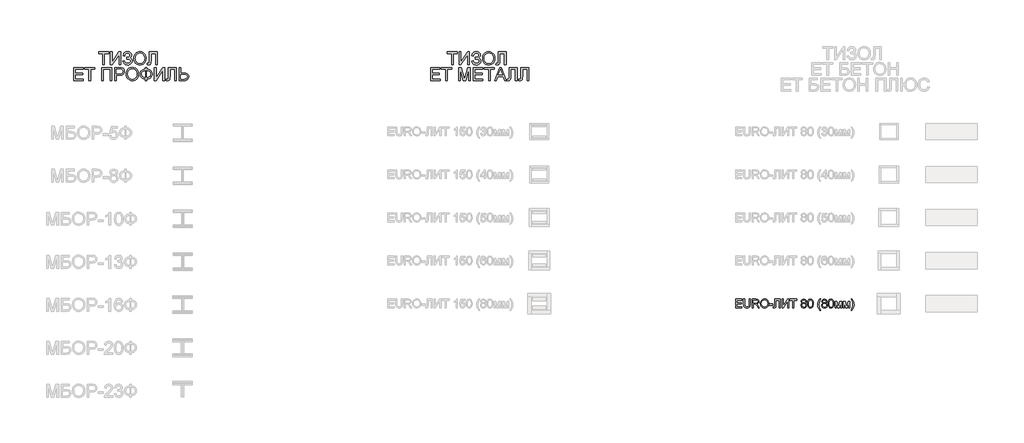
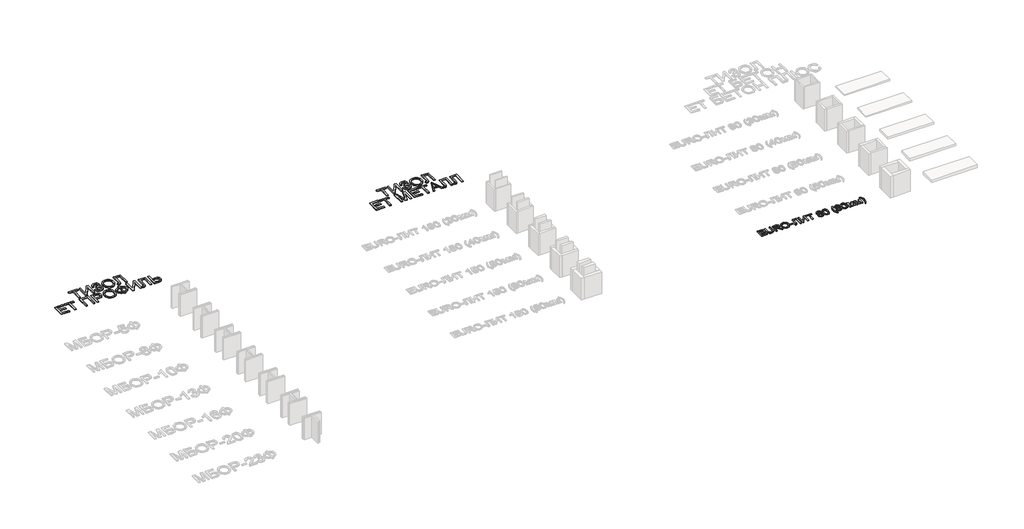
# One storey, part 19 of 35: 3 proxies.
"""IFC4 building model written with IfcOpenShell, lengths in millimetres."""

import ifcopenshell
import ifcopenshell.guid

model = None  # the IFC model being written
_history = None  # IfcOwnerHistory: only IFC2X3 demands one
_inside = {}  # id of a spatial element -> (the spatial element, [elements in it])
_under = {}  # id of a project, library or spatial element -> (it, [spatial elements below it])
_declared = {}  # id of a project -> (the project, [libraries it declares])
_typed = {}  # id of a type object -> (the type object, [elements of that type])
_made_of = {}  # id of a material, layer set ... -> (it, [elements and type objects made of it])


def new_model(schema):
    """Start an empty IFC model of exactly this schema.

    Asked for "IFC4X3", IfcOpenShell would pick the latest addendum, in which some entities
    have other attributes; the version numbers below select the first issue.
    IFC2X3 requires an IfcOwnerHistory on every rooted entity: one is made here for all.
    """
    global model, _history
    if schema == "IFC4X3":
        model = ifcopenshell.file(schema_version=(4, 3, 0, 0))
    else:
        model = ifcopenshell.file(schema=schema)
    _inside.clear()
    _under.clear()
    _declared.clear()
    _typed.clear()
    _made_of.clear()
    _history = None
    if model.schema == "IFC2X3":
        org = make("IfcOrganization", Name="unknown")
        user = make(
            "IfcPersonAndOrganization",
            ThePerson=make("IfcPerson", FamilyName="unknown"),
            TheOrganization=org,
        )
        app = make(
            "IfcApplication",
            ApplicationDeveloper=org,
            Version="unknown",
            ApplicationFullName="unknown",
            ApplicationIdentifier="unknown",
        )
        _history = make(
            "IfcOwnerHistory",
            OwningUser=user,
            OwningApplication=app,
            ChangeAction="ADDED",
            CreationDate=0,
        )
    return model


def make(cls, **values):
    """One entity of the class cls with the attributes given. An attribute that is None is left unset."""
    return model.create_entity(
        cls, **{name: value for name, value in values.items() if value is not None}
    )


def rooted(cls, **values):
    """An entity with a GlobalId (a new one), such as an element, a storey or a relation."""
    return make(cls, GlobalId=ifcopenshell.guid.new(), OwnerHistory=_history, **values)


def si_unit(unit_type, name, prefix=None):
    """IfcSIUnit, for example si_unit("LENGTHUNIT", "METRE", prefix="MILLI")."""
    return make("IfcSIUnit", UnitType=unit_type, Prefix=prefix, Name=name)


def assignment(units):
    """IfcUnitAssignment: the units of a project."""
    return None if units is None else make("IfcUnitAssignment", Units=units)


def point(xyz):
    """IfcCartesianPoint."""
    return None if xyz is None else make("IfcCartesianPoint", Coordinates=xyz)


def direction(xyz):
    """IfcDirection."""
    return None if xyz is None else make("IfcDirection", DirectionRatios=xyz)


def frame(location, z_axis=None, x_axis=None):
    """IfcAxis2Placement3D, a coordinate frame: its origin and axes. An axis left out is left unset."""
    return make(
        "IfcAxis2Placement3D",
        Location=point(location),
        Axis=direction(z_axis),
        RefDirection=direction(x_axis),
    )


def origin():
    """The frame at (0, 0, 0) with its axes left unset."""
    return frame((0.0, 0.0, 0.0))


def origin_with_axes():
    """The frame at (0, 0, 0) with the z axis (0, 0, 1) and the x axis (1, 0, 0) written out."""
    return frame((0.0, 0.0, 0.0), z_axis=(0.0, 0.0, 1.0), x_axis=(1.0, 0.0, 0.0))


def place(relative_to, where):
    """IfcLocalPlacement: puts the frame where relative to a parent placement (None: the world)."""
    return make(
        "IfcLocalPlacement", PlacementRelTo=relative_to, RelativePlacement=where
    )


def context(
    kind, dimensions, precision=None, world=None, true_north=None, identifier=None
):
    """IfcGeometricRepresentationContext, for example the 3D "Model" context."""
    return make(
        "IfcGeometricRepresentationContext",
        ContextIdentifier=identifier,
        ContextType=kind,
        CoordinateSpaceDimension=dimensions,
        Precision=precision,
        WorldCoordinateSystem=world,
        TrueNorth=true_north,
    )


def project(units=None, contexts=None):
    """IfcProject with its units and contexts."""
    return rooted(
        "IfcProject",
        Name="project",
        RepresentationContexts=contexts,
        UnitsInContext=assignment(units),
    )


def spatial(cls, under=None, at=None, **own):
    """A site, building, storey or space (cls), placed at a placement, below another one or the project."""
    s = rooted(cls, ObjectPlacement=at, **own)
    if under is not None:
        _under.setdefault(under.id(), (under, []))[1].append(s)
    return s


def polyline(points):
    """IfcPolyline through the points."""
    return make("IfcPolyline", Points=[point(p) for p in points])


def outline(outer, holes=None, kind="AREA"):
    """IfcArbitraryClosedProfileDef: a profile drawn as a closed curve; with holes, ...WithVoids."""
    if holes is None:
        return make("IfcArbitraryClosedProfileDef", ProfileType=kind, OuterCurve=outer)
    return make(
        "IfcArbitraryProfileDefWithVoids",
        ProfileType=kind,
        OuterCurve=outer,
        InnerCurves=holes,
    )


def extrude(swept, where, along, depth):
    """IfcExtrudedAreaSolid: the profile swept, set in the frame where, extruded along a direction by depth."""
    return make(
        "IfcExtrudedAreaSolid",
        SweptArea=swept,
        Position=where,
        ExtrudedDirection=direction(along),
        Depth=depth,
    )


def shape(context_of_items, identifier, shape_type, items):
    """IfcShapeRepresentation: the items that make up one representation, for example the "Body"."""
    return make(
        "IfcShapeRepresentation",
        ContextOfItems=context_of_items,
        RepresentationIdentifier=identifier,
        RepresentationType=shape_type,
        Items=items,
    )


def made_of(thing, what):
    """Note that an element or type object is made of a material, layer set ...; save() writes the relation."""
    if what is not None:
        _made_of.setdefault(what.id(), (what, []))[1].append(thing)
    return thing


def element(
    cls,
    number,
    at=None,
    inside=None,
    cuts=None,
    type_object=None,
    material=None,
    context=None,
    identifier="Body",
    shape_type=None,
    held_by="IfcProductDefinitionShape",
    body=None,
    shapes=None,
    **own,
):
    """One element of the class cls, such as IfcWall. Its Tag is "e" and its number.

    at: its placement. inside: the storey or other place that contains it. cuts: it is an
    opening in that element (IfcRelVoidsElement). A single representation is given by context,
    identifier, shape_type and body (its items); several are given by shapes. held_by: the class
    of the entity that holds the representations. save() writes the other relations.
    """
    e = rooted(cls, Tag="e%d" % number, ObjectPlacement=at, **own)
    if body is not None:
        shapes = [shape(context, identifier, shape_type, body)]
    if shapes is not None:
        e.Representation = make(held_by, Representations=shapes)
    if inside is not None:
        _inside.setdefault(inside.id(), (inside, []))[1].append(e)
    if cuts is not None:
        rooted(
            "IfcRelVoidsElement", RelatingBuildingElement=cuts, RelatedOpeningElement=e
        )
    if type_object is not None:
        _typed.setdefault(type_object.id(), (type_object, []))[1].append(e)
    return made_of(e, material)


def aggregate(whole, parts):
    """IfcRelAggregates: a whole, such as a stair, and the parts it consists of."""
    return rooted("IfcRelAggregates", RelatingObject=whole, RelatedObjects=parts)


def save(model, path):
    """Write the relations noted so far, then the file.

    IfcRelAggregates (storeys below a building ...), IfcRelContainedInSpatialStructure (elements
    in a storey), IfcRelDefinesByType, IfcRelAssociatesMaterial and IfcRelDeclares: one each for
    every whole, place, type object, material and project.
    """
    for whole, parts in _under.values():
        aggregate(whole, parts)
    for where, things in _inside.values():
        rooted(
            "IfcRelContainedInSpatialStructure",
            RelatedElements=things,
            RelatingStructure=where,
        )
    for kind, things in _typed.values():
        rooted("IfcRelDefinesByType", RelatedObjects=things, RelatingType=kind)
    for what, things in _made_of.values():
        rooted("IfcRelAssociatesMaterial", RelatedObjects=things, RelatingMaterial=what)
    for by, libraries in _declared.values():
        rooted("IfcRelDeclares", RelatingContext=by, RelatedDefinitions=libraries)
    model.write(path)


model = new_model("IFC4")

# Units and contexts
model_context = context("Model", 3, world=origin())
ifc_project = project(units=[si_unit("LENGTHUNIT", "METRE", prefix="MILLI")], contexts=[model_context])

# Site, building, storey
site = spatial("IfcSite", under=ifc_project)
building = spatial("IfcBuilding", under=site)
storey = spatial("IfcBuildingStorey", under=building, Name="Этаж 01", Elevation=0.0)

# Proxies
placement = place(None, origin())
element("IfcBuildingElementProxy", 1, Name="600 мм Arial", ObjectType="600 мм Arial", at=placement, inside=storey, context=model_context, shape_type="SweptSolid", body=[
    extrude(outline(polyline([(16812.8246338, -47580.4053349), (16812.8246338, -47316.7075208), (16713.9379535, -47316.7075208), (16713.9379535, -47279.0364045), (16949.3824304, -47279.0364045), (16949.3824304, -47316.7075208), (16850.4957501, -47316.7075208), (16850.4957501, -47580.4053349), (16812.8246338, -47580.4053349)])), origin_with_axes(), (0.0, 0.0, 1.0), 20.0),
    extrude(outline(polyline([(16991.7624363, -47279.0364045), (17029.4335526, -47279.0364045), (17029.4335526, -47517.7182429), (17187.1813521, -47279.0364045), (17227.2069132, -47279.0364045), (17227.2069132, -47580.4053349), (17189.5357969, -47580.4053349), (17189.5357969, -47342.385684), (17032.1558793, -47580.4053349), (16991.7624363, -47580.4053349), (16991.7624363, -47279.0364045)])), origin_with_axes(), (0.0, 0.0, 1.0), 20.0),
    extrude(outline(polyline([(17279.0046981, -47495.6453232), (17316.6758144, -47486.2275442), (17324.6312626, -47506.6174037), (17339.8155919, -47527.0256574), (17361.6769795, -47542.3387455), (17389.6636023, -47547.4431081), (17418.018107, -47543.6079383), (17439.6587654, -47532.102429), (17453.3715668, -47515.1706601), (17457.9425006, -47495.056712), (17452.9485025, -47473.9862708), (17437.9665082, -47457.7166895), (17414.3760753, -47447.3148261), (17383.5567611, -47443.8475383), (17363.7647098, -47443.8475383), (17363.7647098, -47406.176422), (17406.402233, -47403.1230014), (17420.2989754, -47397.696742), (17432.4850665, -47387.5248048), (17440.9831406, -47374.1247032), (17443.8158319, -47359.0139502), (17440.0450415, -47341.272841), (17428.7326701, -47326.0149353), (17410.9823639, -47315.5027072), (17387.8977687, -47311.9986312), (17367.0296625, -47314.6933669), (17349.4541002, -47322.7775737), (17335.9896192, -47335.3131527), (17327.4547569, -47351.3620047), (17321.384704, -47377.9230848), (17283.7135876, -47368.5053057), (17295.4168336, -47327.3025222), (17304.8311638, -47311.1157144), (17316.6206321, -47297.8719626), (17330.7852386, -47287.5712668), (17347.3249831, -47280.2136269), (17366.2398658, -47275.7990429), (17387.5298867, -47274.3275149), (17408.0416072, -47275.8565245), (17426.313846, -47280.4435531), (17442.3466032, -47288.0886008), (17456.1398788, -47298.7916676), (17467.2292217, -47311.541078), (17475.1501809, -47325.3251565), (17479.9027564, -47340.1439031), (17481.4869483, -47355.9973179), (17479.0221389, -47375.8215589), (17471.6277108, -47393.2821581), (17459.3036639, -47408.3791154), (17442.0499984, -47421.112431), (17463.000878, -47430.7601363), (17480.2361495, -47447.0481117), (17491.76925, -47468.5784054), (17495.6136169, -47493.9530661), (17493.7696084, -47512.5839898), (17488.2375829, -47529.6284225), (17479.0175404, -47545.0863641), (17466.1094809, -47558.9578146), (17450.1571978, -47570.4012439), (17431.8044848, -47578.575122), (17411.0513418, -47583.4794488), (17387.8977687, -47585.1142245), (17349.6932235, -47579.5224181), (17333.3362703, -47572.5326602), (17318.80953, -47562.7469991), (17306.1130026, -47550.1654349), (17295.2466882, -47534.7879675), (17279.0046981, -47495.6453232)])), origin_with_axes(), (0.0, 0.0, 1.0), 20.0),
    extrude(outline(polyline([(17533.2847332, -47433.6939952), (17535.7955278, -47398.345134), (17543.3279116, -47367.0521718), (17555.8818847, -47339.8151086), (17573.457447, -47316.6339444), (17595.0015364, -47298.1248815), (17619.4610905, -47284.9041223), (17646.8361095, -47276.9716668), (17677.1265933, -47274.3275149), (17716.6555137, -47279.2939219), (17752.1009439, -47294.1931427), (17781.5315035, -47317.9767137), (17803.015812, -47349.5961711), (17816.1491993, -47387.5248048), (17820.526995, -47430.2359045), (17815.919273, -47473.5172212), (17802.096107, -47511.9792838), (17779.8208522, -47543.6539236), (17749.8568637, -47566.5729719), (17714.7149361, -47580.4789113), (17676.9058641, -47585.1142245), (17636.7699384, -47579.9914677), (17601.1221731, -47564.6231973), (17571.7651899, -47540.3981679), (17550.5016105, -47508.7051341), (17537.5889525, -47472.2388313), (17533.2847332, -47433.6939952)]), holes=[polyline([(17570.9558495, -47434.0618772), (17572.8389454, -47459.0364662), (17578.4882333, -47481.2059549), (17587.9037131, -47500.5703434), (17601.0853849, -47517.1296317), (17617.108945, -47530.3917777), (17635.0500901, -47539.864739), (17654.90882, -47545.5485159), (17676.6851349, -47547.4431081), (17698.8339303, -47545.5301218), (17718.927185, -47539.7911626), (17736.9648991, -47530.2262308), (17752.9470725, -47516.8353262), (17766.0321752, -47499.9265499), (17775.3786771, -47479.8080033), (17780.9865783, -47456.4796863), (17782.8558787, -47429.9415989), (17779.6553053, -47396.593096), (17770.0535853, -47367.7695417), (17754.2990388, -47344.1975029), (17732.6399864, -47326.6035464), (17706.5111677, -47315.64986), (17677.3473225, -47311.9986312), (17656.327465, -47313.757567), (17636.8251207, -47319.0343744), (17618.8402897, -47327.8290533), (17602.3729719, -47340.1416039), (17588.6279808, -47356.5652357), (17578.8101301, -47377.6931585), (17572.9194196, -47403.5253724), (17570.9558495, -47434.0618772)])]), origin_with_axes(), (0.0, 0.0, 1.0), 20.0),
    extrude(outline(polyline([(17895.8692276, -47279.0364045), (18079.5159196, -47279.0364045), (18079.5159196, -47580.4053349), (18041.8448033, -47580.4053349), (18041.8448033, -47316.7075208), (17933.5403439, -47316.7075208), (17933.5403439, -47470.4821948), (17929.1625482, -47539.0921869), (17922.3843224, -47558.479568), (17910.8052366, -47573.0109068), (17894.9495226, -47582.088395), (17875.3414123, -47585.1142245), (17844.0714427, -47580.4053349), (17848.7803322, -47542.7342186), (17866.80655, -47547.4431081), (17879.5444641, -47544.9139194), (17888.6219523, -47537.3263533), (17894.0574088, -47520.3577963), (17895.8692276, -47489.6856349), (17895.8692276, -47279.0364045)])), origin_with_axes(), (0.0, 0.0, 1.0), 20.0),
    extrude(outline(polyline([(16139.4534298, -47946.3297885), (16139.4534298, -47644.960858), (16356.0623486, -47644.960858), (16356.0623486, -47682.6319743), (16177.1245462, -47682.6319743), (16177.1245462, -47772.1008755), (16346.6445695, -47772.1008755), (16346.6445695, -47809.7719918), (16177.1245462, -47809.7719918), (16177.1245462, -47908.6586721), (16360.7712381, -47908.6586721), (16360.7712381, -47946.3297885), (16139.4534298, -47946.3297885)])), origin_with_axes(), (0.0, 0.0, 1.0), 20.0),
    extrude(outline(polyline([(16492.6201452, -47946.3297885), (16492.6201452, -47682.6319743), (16393.7334649, -47682.6319743), (16393.7334649, -47644.960858), (16629.1779418, -47644.960858), (16629.1779418, -47682.6319743), (16530.2912615, -47682.6319743), (16530.2912615, -47946.3297885), (16492.6201452, -47946.3297885)])), origin_with_axes(), (0.0, 0.0, 1.0), 20.0),
    extrude(outline(polyline([(16789.2801861, -47644.960858), (17024.724663, -47644.960858), (17024.724663, -47946.3297885), (16987.0535467, -47946.3297885), (16987.0535467, -47682.6319743), (16826.9513024, -47682.6319743), (16826.9513024, -47946.3297885), (16789.2801861, -47946.3297885), (16789.2801861, -47644.960858)])), origin_with_axes(), (0.0, 0.0, 1.0), 20.0),
    extrude(outline(polyline([(17090.6491166, -47946.3297885), (17090.6491166, -47644.960858), (17202.3380903, -47644.960858), (17247.3668465, -47647.8303376), (17267.4440064, -47653.1922176), (17283.971105, -47661.920218), (17297.2792362, -47674.4098117), (17307.6994937, -47691.056472), (17314.4317342, -47710.6921735), (17316.6758144, -47732.1488909), (17315.1606004, -47750.6487567), (17310.6149585, -47767.6678975), (17303.0388887, -47783.2063133), (17292.4323909, -47797.264004), (17277.8711617, -47808.9166662), (17258.4308975, -47817.2399963), (17234.1115984, -47822.2339944), (17204.9132643, -47823.8986605), (17128.3202329, -47823.8986605), (17128.3202329, -47946.3297885), (17090.6491166, -47946.3297885)]), holes=[polyline([(17128.3202329, -47786.2275442), (17207.1205562, -47786.2275442), (17240.5242414, -47782.7694534), (17262.5971611, -47772.3951811), (17274.9028139, -47755.7485209), (17279.0046981, -47733.473266), (17276.585874, -47716.5506943), (17269.3294016, -47702.2768729), (17258.1365919, -47691.5347186), (17243.9087558, -47685.2071483), (17206.2376395, -47682.6319743), (17128.3202329, -47682.6319743), (17128.3202329, -47786.2275442)])]), origin_with_axes(), (0.0, 0.0, 1.0), 20.0),
    extrude(outline(polyline([(17354.3469307, -47799.6184488), (17356.8577253, -47764.2695876), (17364.3901092, -47732.9766253), (17376.9440823, -47705.7395621), (17394.5196446, -47682.5583979), (17416.0637339, -47664.049335), (17440.5232881, -47650.8285758), (17467.8983071, -47642.8961203), (17498.1887908, -47640.2519685), (17537.7177112, -47645.2183754), (17573.1631415, -47660.1175962), (17602.5937011, -47683.9011672), (17624.0780096, -47715.5206247), (17637.2113968, -47753.4492584), (17641.5891926, -47796.160358), (17636.9814706, -47839.4416748), (17623.1583046, -47877.9037373), (17600.8830498, -47909.5783771), (17570.9190613, -47932.4974254), (17535.7771337, -47946.4033649), (17497.9680616, -47951.038678), (17457.832136, -47945.9159212), (17422.1843706, -47930.5476509), (17392.8273874, -47906.3226215), (17371.5638081, -47874.6295876), (17358.6511501, -47838.1632848), (17354.3469307, -47799.6184488)]), holes=[polyline([(17392.018047, -47799.9863308), (17393.901143, -47824.9609197), (17399.5504309, -47847.1304085), (17408.9659107, -47866.494797), (17422.1475824, -47883.0540853), (17438.1711426, -47896.3162312), (17456.1122876, -47905.7891926), (17475.9710176, -47911.4729694), (17497.7473324, -47913.3675617), (17519.8961278, -47911.4545753), (17539.9893825, -47905.7156162), (17558.0270966, -47896.1506843), (17574.00927, -47882.7597797), (17587.0943728, -47865.8510035), (17596.4408747, -47845.7324569), (17602.0487759, -47822.4041399), (17603.9180762, -47795.8660524), (17600.7175029, -47762.5175496), (17591.1157828, -47733.6939952), (17575.3612364, -47710.1219564), (17553.7021839, -47692.528), (17527.5733652, -47681.5743136), (17498.40952, -47677.9230848), (17477.3896625, -47679.6820206), (17457.8873183, -47684.9588279), (17439.9024872, -47693.7535069), (17423.4351694, -47706.0660574), (17409.6901784, -47722.4896892), (17399.8723276, -47743.6176121), (17393.9816172, -47769.4498259), (17392.018047, -47799.9863308)])]), origin_with_axes(), (0.0, 0.0, 1.0), 20.0),
    extrude(outline(polyline([(17801.6914369, -47682.6319743), (17801.6914369, -47644.960858), (17839.3625532, -47644.960858), (17839.3625532, -47682.6319743), (17866.2340336, -47685.9521093), (17890.1210714, -47692.8223056), (17911.0236666, -47703.2425631), (17928.941819, -47717.2128819), (17943.3145087, -47733.919323), (17953.5807156, -47752.5479475), (17959.7404398, -47773.0987554), (17961.7936812, -47795.5717468), (17959.8048191, -47817.5940828), (17953.838233, -47837.8965704), (17943.8939228, -47856.4792097), (17929.9718886, -47873.3420006), (17912.3756329, -47887.5514427), (17891.4086584, -47898.1740353), (17867.0709652, -47905.2097784), (17839.3625532, -47908.6586721), (17839.3625532, -47946.3297885), (17801.6914369, -47946.3297885), (17801.6914369, -47908.6586721), (17776.5237099, -47905.8512727), (17753.5540778, -47899.4892134), (17732.7825406, -47889.5724944), (17714.2090984, -47876.1011156), (17698.919003, -47859.6314985), (17687.9975062, -47840.7200647), (17681.4446082, -47819.3668141), (17679.2603089, -47795.5717468), (17681.4377104, -47771.6686142), (17687.9699151, -47750.2854732), (17698.8569229, -47731.4223239), (17714.0987338, -47715.0791663), (17732.6376871, -47701.7388454), (17753.416122, -47691.8842065), (17776.4340386, -47685.5152494), (17801.6914369, -47682.6319743)]), holes=[polyline([(17839.3625532, -47720.3030906), (17839.3625532, -47870.9875558), (17874.6056483, -47864.7611531), (17901.4610339, -47849.6136119), (17911.3754537, -47838.8875525), (17918.4571821, -47826.3174846), (17924.1225648, -47795.6453232), (17918.5583497, -47765.3870291), (17911.6030807, -47752.8928369), (17901.8657041, -47742.1552811), (17875.111486, -47726.832996), (17839.3625532, -47720.3030906)]), polyline([(17801.6914369, -47720.3030906), (17767.414032, -47726.3363553), (17740.3655083, -47741.3459407), (17730.1130969, -47752.0513068), (17722.7899459, -47764.6696592), (17718.3960554, -47779.200998), (17716.9314252, -47795.6453232), (17718.3776613, -47811.9401964), (17722.7163695, -47826.391061), (17729.94755, -47838.9979171), (17740.0712027, -47849.7607647), (17767.04615, -47864.9083059), (17801.6914369, -47870.9875558), (17801.6914369, -47720.3030906)])]), origin_with_axes(), (0.0, 0.0, 1.0), 20.0),
    extrude(outline(polyline([(18013.5914661, -47644.960858), (18051.2625824, -47644.960858), (18051.2625824, -47883.6426965), (18209.0103819, -47644.960858), (18249.035943, -47644.960858), (18249.035943, -47946.3297885), (18211.3648267, -47946.3297885), (18211.3648267, -47708.3101376), (18053.9849091, -47946.3297885), (18013.5914661, -47946.3297885), (18013.5914661, -47644.960858)])), origin_with_axes(), (0.0, 0.0, 1.0), 20.0),
    extrude(outline(polyline([(18338.5048442, -47644.960858), (18522.1515362, -47644.960858), (18522.1515362, -47946.3297885), (18484.4804199, -47946.3297885), (18484.4804199, -47682.6319743), (18376.1759605, -47682.6319743), (18376.1759605, -47836.4066483), (18371.7981648, -47905.0166404), (18365.019939, -47924.4040215), (18353.4408532, -47938.9353603), (18337.5851392, -47948.0128486), (18317.9770289, -47951.038678), (18286.7070593, -47946.3297885), (18291.4159488, -47908.6586721), (18309.4421666, -47913.3675617), (18322.1800807, -47910.838373), (18331.2575689, -47903.2508068), (18336.6930254, -47886.2822498), (18338.5048442, -47855.6100884), (18338.5048442, -47644.960858)])), origin_with_axes(), (0.0, 0.0, 1.0), 20.0),
    extrude(outline(polyline([(18588.0759897, -47644.960858), (18625.747106, -47644.960858), (18625.747106, -47772.1008755), (18696.3068727, -47772.1008755), (18738.8800166, -47775.0531285), (18767.8599208, -47783.9098876), (18786.9162081, -47797.8526152), (18799.7185016, -47816.062774), (18806.9749739, -47836.7101509), (18809.393798, -47857.9645332), (18803.5812625, -47891.0371246), (18786.1436559, -47919.7687084), (18772.0169873, -47931.3891809), (18752.8871236, -47939.6895184), (18728.7540647, -47944.6697209), (18699.6178107, -47946.3297885), (18588.0759897, -47946.3297885), (18588.0759897, -47644.960858)]), holes=[polyline([(18625.747106, -47908.6586721), (18699.5442343, -47908.6586721), (18736.6635276, -47904.9338669), (18749.3462594, -47900.2778604), (18758.1110479, -47893.7594513), (18768.3197733, -47877.3243232), (18771.7226817, -47857.8173804), (18769.2578724, -47842.0168487), (18761.8634443, -47828.7547028), (18750.3579349, -47818.8862683), (18735.5598816, -47813.2668708), (18679.8257593, -47809.7719918), (18625.747106, -47809.7719918), (18625.747106, -47908.6586721)])]), origin_with_axes(), (0.0, 0.0, 1.0), 20.0),
])
element("IfcBuildingElementProxy", 2, Name="600 мм Arial", ObjectType="600 мм Arial", at=placement, inside=storey, context=model_context, shape_type="SweptSolid", body=[
    extrude(outline(polyline([(24912.8246338, -47580.4053349), (24912.8246338, -47316.7075208), (24813.9379535, -47316.7075208), (24813.9379535, -47279.0364045), (25049.3824304, -47279.0364045), (25049.3824304, -47316.7075208), (24950.4957501, -47316.7075208), (24950.4957501, -47580.4053349), (24912.8246338, -47580.4053349)])), origin_with_axes(), (0.0, 0.0, 1.0), 20.0),
    extrude(outline(polyline([(25091.7624363, -47279.0364045), (25129.4335526, -47279.0364045), (25129.4335526, -47517.7182429), (25287.1813521, -47279.0364045), (25327.2069132, -47279.0364045), (25327.2069132, -47580.4053349), (25289.5357969, -47580.4053349), (25289.5357969, -47342.385684), (25132.1558793, -47580.4053349), (25091.7624363, -47580.4053349), (25091.7624363, -47279.0364045)])), origin_with_axes(), (0.0, 0.0, 1.0), 20.0),
    extrude(outline(polyline([(25379.0046981, -47495.6453232), (25416.6758144, -47486.2275442), (25424.6312626, -47506.6174037), (25439.8155919, -47527.0256574), (25461.6769795, -47542.3387455), (25489.6636023, -47547.4431081), (25518.018107, -47543.6079383), (25539.6587654, -47532.102429), (25553.3715668, -47515.1706601), (25557.9425006, -47495.056712), (25552.9485025, -47473.9862708), (25537.9665082, -47457.7166895), (25514.3760753, -47447.3148261), (25483.5567611, -47443.8475383), (25463.7647098, -47443.8475383), (25463.7647098, -47406.176422), (25506.402233, -47403.1230014), (25520.2989754, -47397.696742), (25532.4850665, -47387.5248048), (25540.9831406, -47374.1247032), (25543.8158319, -47359.0139502), (25540.0450415, -47341.272841), (25528.7326701, -47326.0149353), (25510.9823639, -47315.5027072), (25487.8977687, -47311.9986312), (25467.0296625, -47314.6933669), (25449.4541002, -47322.7775737), (25435.9896192, -47335.3131527), (25427.4547569, -47351.3620047), (25421.384704, -47377.9230848), (25383.7135876, -47368.5053057), (25395.4168336, -47327.3025222), (25404.8311638, -47311.1157144), (25416.6206321, -47297.8719626), (25430.7852386, -47287.5712668), (25447.3249831, -47280.2136269), (25466.2398658, -47275.7990429), (25487.5298867, -47274.3275149), (25508.0416072, -47275.8565245), (25526.313846, -47280.4435531), (25542.3466032, -47288.0886008), (25556.1398788, -47298.7916676), (25567.2292217, -47311.541078), (25575.1501809, -47325.3251565), (25579.9027564, -47340.1439031), (25581.4869483, -47355.9973179), (25579.0221389, -47375.8215589), (25571.6277108, -47393.2821581), (25559.3036639, -47408.3791154), (25542.0499984, -47421.112431), (25563.000878, -47430.7601363), (25580.2361495, -47447.0481117), (25591.76925, -47468.5784054), (25595.6136169, -47493.9530661), (25593.7696084, -47512.5839898), (25588.2375829, -47529.6284225), (25579.0175404, -47545.0863641), (25566.1094809, -47558.9578146), (25550.1571978, -47570.4012439), (25531.8044848, -47578.575122), (25511.0513418, -47583.4794488), (25487.8977687, -47585.1142245), (25449.6932235, -47579.5224181), (25433.3362703, -47572.5326602), (25418.80953, -47562.7469991), (25406.1130026, -47550.1654349), (25395.2466882, -47534.7879675), (25379.0046981, -47495.6453232)])), origin_with_axes(), (0.0, 0.0, 1.0), 20.0),
    extrude(outline(polyline([(25633.2847332, -47433.6939952), (25635.7955278, -47398.345134), (25643.3279116, -47367.0521718), (25655.8818847, -47339.8151086), (25673.457447, -47316.6339444), (25695.0015364, -47298.1248815), (25719.4610905, -47284.9041223), (25746.8361095, -47276.9716668), (25777.1265933, -47274.3275149), (25816.6555137, -47279.2939219), (25852.1009439, -47294.1931427), (25881.5315035, -47317.9767137), (25903.015812, -47349.5961711), (25916.1491993, -47387.5248048), (25920.526995, -47430.2359045), (25915.919273, -47473.5172212), (25902.096107, -47511.9792838), (25879.8208522, -47543.6539236), (25849.8568637, -47566.5729719), (25814.7149361, -47580.4789113), (25776.9058641, -47585.1142245), (25736.7699384, -47579.9914677), (25701.1221731, -47564.6231973), (25671.7651899, -47540.3981679), (25650.5016105, -47508.7051341), (25637.5889525, -47472.2388313), (25633.2847332, -47433.6939952)]), holes=[polyline([(25670.9558495, -47434.0618772), (25672.8389454, -47459.0364662), (25678.4882333, -47481.2059549), (25687.9037131, -47500.5703434), (25701.0853849, -47517.1296317), (25717.108945, -47530.3917777), (25735.0500901, -47539.864739), (25754.90882, -47545.5485159), (25776.6851349, -47547.4431081), (25798.8339303, -47545.5301218), (25818.927185, -47539.7911626), (25836.9648991, -47530.2262308), (25852.9470725, -47516.8353262), (25866.0321752, -47499.9265499), (25875.3786771, -47479.8080033), (25880.9865783, -47456.4796863), (25882.8558787, -47429.9415989), (25879.6553053, -47396.593096), (25870.0535853, -47367.7695417), (25854.2990388, -47344.1975029), (25832.6399864, -47326.6035464), (25806.5111677, -47315.64986), (25777.3473225, -47311.9986312), (25756.327465, -47313.757567), (25736.8251207, -47319.0343744), (25718.8402897, -47327.8290533), (25702.3729719, -47340.1416039), (25688.6279808, -47356.5652357), (25678.8101301, -47377.6931585), (25672.9194196, -47403.5253724), (25670.9558495, -47434.0618772)])]), origin_with_axes(), (0.0, 0.0, 1.0), 20.0),
    extrude(outline(polyline([(25995.8692276, -47279.0364045), (26179.5159196, -47279.0364045), (26179.5159196, -47580.4053349), (26141.8448033, -47580.4053349), (26141.8448033, -47316.7075208), (26033.5403439, -47316.7075208), (26033.5403439, -47470.4821948), (26029.1625482, -47539.0921869), (26022.3843224, -47558.479568), (26010.8052366, -47573.0109068), (25994.9495226, -47582.088395), (25975.3414123, -47585.1142245), (25944.0714427, -47580.4053349), (25948.7803322, -47542.7342186), (25966.80655, -47547.4431081), (25979.5444641, -47544.9139194), (25988.6219523, -47537.3263533), (25994.0574088, -47520.3577963), (25995.8692276, -47489.6856349), (25995.8692276, -47279.0364045)])), origin_with_axes(), (0.0, 0.0, 1.0), 20.0),
    extrude(outline(polyline([(24425.4545666, -47946.3297885), (24425.4545666, -47644.960858), (24642.0634854, -47644.960858), (24642.0634854, -47682.6319743), (24463.1256829, -47682.6319743), (24463.1256829, -47772.1008755), (24632.6457063, -47772.1008755), (24632.6457063, -47809.7719918), (24463.1256829, -47809.7719918), (24463.1256829, -47908.6586721), (24646.7723749, -47908.6586721), (24646.7723749, -47946.3297885), (24425.4545666, -47946.3297885)])), origin_with_axes(), (0.0, 0.0, 1.0), 20.0),
    extrude(outline(polyline([(24778.621282, -47946.3297885), (24778.621282, -47682.6319743), (24679.7346017, -47682.6319743), (24679.7346017, -47644.960858), (24915.1790786, -47644.960858), (24915.1790786, -47682.6319743), (24816.2923983, -47682.6319743), (24816.2923983, -47946.3297885), (24778.621282, -47946.3297885)])), origin_with_axes(), (0.0, 0.0, 1.0), 20.0),
    extrude(outline(polyline([(25075.2813229, -47946.3297885), (25075.2813229, -47644.960858), (25140.1021304, -47644.960858), (25201.7591528, -47857.375922), (25214.1935643, -47901.7424906), (25227.6580453, -47853.6971021), (25288.2849981, -47644.960858), (25353.1058056, -47644.960858), (25353.1058056, -47946.3297885), (25315.4346893, -47946.3297885), (25315.4346893, -47682.6319743), (25239.7245747, -47946.3297885), (25188.6625538, -47946.3297885), (25112.9524392, -47682.6319743), (25112.9524392, -47946.3297885), (25075.2813229, -47946.3297885)])), origin_with_axes(), (0.0, 0.0, 1.0), 20.0),
    extrude(outline(polyline([(25419.0302592, -47946.3297885), (25419.0302592, -47644.960858), (25635.6391779, -47644.960858), (25635.6391779, -47682.6319743), (25456.7013755, -47682.6319743), (25456.7013755, -47772.1008755), (25626.2213989, -47772.1008755), (25626.2213989, -47809.7719918), (25456.7013755, -47809.7719918), (25456.7013755, -47908.6586721), (25640.3480675, -47908.6586721), (25640.3480675, -47946.3297885), (25419.0302592, -47946.3297885)])), origin_with_axes(), (0.0, 0.0, 1.0), 20.0),
    extrude(outline(polyline([(25772.1969746, -47946.3297885), (25772.1969746, -47682.6319743), (25673.3102942, -47682.6319743), (25673.3102942, -47644.960858), (25908.7547712, -47644.960858), (25908.7547712, -47682.6319743), (25809.8680909, -47682.6319743), (25809.8680909, -47946.3297885), (25772.1969746, -47946.3297885)])), origin_with_axes(), (0.0, 0.0, 1.0), 20.0),
    extrude(outline(polyline([(25916.0388347, -47946.3297885), (26036.3362471, -47644.960858), (26068.4155571, -47644.960858), (26188.7129695, -47946.3297885), (26148.9081376, -47946.3297885), (26114.4008065, -47852.1519977), (25990.2774213, -47852.1519977), (25955.8436665, -47946.3297885), (25916.0388347, -47946.3297885)]), holes=[polyline([(26004.1097843, -47814.4808814), (26100.6420198, -47814.4808814), (26073.4923286, -47740.3894476), (26052.3759021, -47682.6319743), (26033.6139203, -47733.9147244), (26004.1097843, -47814.4808814)])]), origin_with_axes(), (0.0, 0.0, 1.0), 20.0),
    extrude(outline(polyline([(26252.5037075, -47644.960858), (26436.1503994, -47644.960858), (26436.1503994, -47946.3297885), (26398.4792831, -47946.3297885), (26398.4792831, -47682.6319743), (26290.1748238, -47682.6319743), (26290.1748238, -47836.4066483), (26285.797028, -47905.0166404), (26279.0188023, -47924.4040215), (26267.4397165, -47938.9353603), (26251.5840025, -47948.0128486), (26231.9758921, -47951.038678), (26200.7059225, -47946.3297885), (26205.4148121, -47908.6586721), (26223.4410298, -47913.3675617), (26236.1789439, -47910.838373), (26245.2564321, -47903.2508068), (26250.6918886, -47886.2822498), (26252.5037075, -47855.6100884), (26252.5037075, -47644.960858)])), origin_with_axes(), (0.0, 0.0, 1.0), 20.0),
    extrude(outline(polyline([(26525.6193007, -47644.960858), (26709.2659927, -47644.960858), (26709.2659927, -47946.3297885), (26671.5948764, -47946.3297885), (26671.5948764, -47682.6319743), (26563.290417, -47682.6319743), (26563.290417, -47836.4066483), (26558.9126212, -47905.0166404), (26552.1343955, -47924.4040215), (26540.5553097, -47938.9353603), (26524.6995957, -47948.0128486), (26505.0914853, -47951.038678), (26473.8215158, -47946.3297885), (26478.5304053, -47908.6586721), (26496.5566231, -47913.3675617), (26509.2945371, -47910.838373), (26518.3720254, -47903.2508068), (26523.8074818, -47886.2822498), (26525.6193007, -47855.6100884), (26525.6193007, -47644.960858)])), origin_with_axes(), (0.0, 0.0, 1.0), 20.0),
])
element("IfcBuildingElementProxy", 3, Name="400 мм Arial", ObjectType="400 мм Arial", at=placement, inside=storey, context=model_context, shape_type="SweptSolid", body=[
    extrude(outline(polyline([(31509.8248691, -53230.4960856), (31509.8248691, -53029.5834653), (31654.2308149, -53029.5834653), (31654.2308149, -53054.6975429), (31534.9389466, -53054.6975429), (31534.9389466, -53114.343477), (31647.9522956, -53114.343477), (31647.9522956, -53139.4575546), (31534.9389466, -53139.4575546), (31534.9389466, -53205.3820081), (31657.3700746, -53205.3820081), (31657.3700746, -53230.4960856), (31509.8248691, -53230.4960856)])), origin_with_axes(), (0.0, 0.0, 1.0), 20.0),
    extrude(outline(polyline([(31826.890098, -53029.5834653), (31852.0041756, -53029.5834653), (31852.0041756, -53145.4908193), (31850.2996556, -53172.6343792), (31845.1860959, -53193.5362079), (31835.6334268, -53209.661702), (31820.6115786, -53222.4762582), (31800.0837633, -53230.8455735), (31774.0131926, -53233.6353453), (31748.5128389, -53231.2073242), (31728.126045, -53223.9232607), (31712.8466795, -53212.0345409), (31702.668611, -53195.7925508), (31696.948046, -53174.0078053), (31695.0411909, -53145.4908193), (31695.0411909, -53029.5834653), (31720.1552685, -53029.5834653), (31720.1552685, -53144.6079025), (31721.3938045, -53167.1774629), (31725.1094127, -53182.8921555), (31731.8416532, -53193.7753312), (31742.1300863, -53201.850341), (31755.5455164, -53206.8535361), (31771.6587478, -53208.5212678), (31797.202021, -53205.2225926), (31814.1859065, -53195.3265669), (31823.7140501, -53176.0495504), (31826.890098, -53144.6079025), (31826.890098, -53029.5834653)])), origin_with_axes(), (0.0, 0.0, 1.0), 20.0),
    extrude(outline(polyline([(31895.9538112, -53230.4960856), (31895.9538112, -53029.5834653), (31982.5287074, -53029.5834653), (32005.7972436, -53030.9384974), (32022.7259468, -53035.0035934), (32035.0990446, -53042.5083861), (32044.7007646, -53054.1825081), (32050.862788, -53068.6586646), (32052.9167959, -53084.5695609), (32049.5138874, -53104.3616122), (32039.305162, -53120.7691492), (32021.9840514, -53132.7988905), (31997.2439873, -53139.4575546), (32011.5178087, -53150.1997088), (32031.8739457, -53176.0495504), (32065.3757328, -53230.4960856), (32036.1904278, -53230.4960856), (32010.0462807, -53188.8518438), (31991.1616716, -53161.2852196), (31977.8933943, -53148.262197), (31965.9494922, -53143.4797311), (31951.3813652, -53142.5968143), (31921.0678888, -53142.5968143), (31921.0678888, -53230.4960856), (31895.9538112, -53230.4960856)]), holes=[polyline([(31921.0678888, -53117.4827367), (31977.2802576, -53117.4827367), (32005.9505278, -53113.9265441), (32015.3805696, -53109.3034937), (32022.2354375, -53102.5467277), (32027.8027183, -53085.5015286), (32025.1478366, -53073.2510582), (32017.1831914, -53063.379558), (32003.4795871, -53056.8680467), (31983.607828, -53054.6975429), (31921.0678888, -53054.6975429), (31921.0678888, -53117.4827367)])]), origin_with_axes(), (0.0, 0.0, 1.0), 20.0),
    extrude(outline(polyline([(32087.4486525, -53132.6885259), (32089.1225155, -53109.1226184), (32094.1441048, -53088.2606436), (32102.5134202, -53070.1026014), (32114.2304617, -53054.648492), (32128.5931879, -53042.3091167), (32144.8995574, -53033.4952772), (32163.14957, -53028.2069736), (32183.3432259, -53026.4442057), (32209.6958395, -53029.7551436), (32233.3261263, -53039.6879575), (32252.9464994, -53055.5436715), (32267.2693717, -53076.6233098), (32276.0249632, -53101.9090656), (32278.9434937, -53130.383132), (32275.871679, -53159.2373432), (32266.6562351, -53184.8787182), (32251.8060652, -53205.9951448), (32231.8300728, -53221.2745103), (32208.4021211, -53230.5451366), (32183.1960731, -53233.6353453), (32156.4387893, -53230.2201742), (32132.6736124, -53219.9746606), (32113.1022903, -53203.824641), (32098.9265707, -53182.6959517), (32090.318132, -53158.3850832), (32087.4486525, -53132.6885259)]), holes=[polyline([(32112.56273, -53132.9337805), (32117.5843192, -53164.3631656), (32132.6490869, -53188.3122835), (32155.2922237, -53203.4690217), (32183.0489203, -53208.5212678), (32211.210287, -53203.4199708), (32233.890212, -53188.1160798), (32242.6136138, -53176.8435623), (32248.8446151, -53163.4311979), (32253.8294162, -53130.1869283), (32251.6957006, -53107.9545931), (32245.2945539, -53088.7388902), (32234.7915229, -53073.0241976), (32220.3521546, -53061.2948933), (32202.9329421, -53053.9924357), (32183.4903787, -53051.5582832), (32156.4755775, -53056.2487786), (32133.5074783, -53070.3202649), (32124.3441509, -53081.2693528), (32117.7989171, -53095.3546347), (32112.56273, -53132.9337805)])]), origin_with_axes(), (0.0, 0.0, 1.0), 20.0),
    extrude(outline(polyline([(32297.7790518, -53170.8501515), (32297.7790518, -53145.736074), (32376.2605441, -53145.736074), (32376.2605441, -53170.8501515), (32297.7790518, -53170.8501515)])), origin_with_axes(), (0.0, 0.0, 1.0), 20.0),
    extrude(outline(polyline([(32423.3494395, -53029.5834653), (32545.7805675, -53029.5834653), (32545.7805675, -53230.4960856), (32520.66649, -53230.4960856), (32520.66649, -53054.6975429), (32448.4635171, -53054.6975429), (32448.4635171, -53157.2139922), (32445.5449866, -53202.9539869), (32441.0261694, -53215.8789077), (32433.3067789, -53225.5664669), (32422.7363029, -53231.6181257), (32409.6642293, -53233.6353453), (32388.8175829, -53230.4960856), (32391.9568426, -53205.3820081), (32403.9743211, -53208.5212678), (32412.4662638, -53206.835142), (32418.5179227, -53201.7767646), (32422.1415603, -53190.4643932), (32423.3494395, -53170.0162856), (32423.3494395, -53029.5834653)])), origin_with_axes(), (0.0, 0.0, 1.0), 20.0),
    extrude(outline(polyline([(32589.7302032, -53029.5834653), (32614.8442808, -53029.5834653), (32614.8442808, -53188.704691), (32720.0094804, -53029.5834653), (32746.6931878, -53029.5834653), (32746.6931878, -53230.4960856), (32721.5791103, -53230.4960856), (32721.5791103, -53071.8163184), (32616.6591653, -53230.4960856), (32589.7302032, -53230.4960856), (32589.7302032, -53029.5834653)])), origin_with_axes(), (0.0, 0.0, 1.0), 20.0),
    extrude(outline(polyline([(32840.8709786, -53230.4960856), (32840.8709786, -53054.6975429), (32774.9465251, -53054.6975429), (32774.9465251, -53029.5834653), (32931.9095097, -53029.5834653), (32931.9095097, -53054.6975429), (32865.9850561, -53054.6975429), (32865.9850561, -53230.4960856), (32840.8709786, -53230.4960856)])), origin_with_axes(), (0.0, 0.0, 1.0), 20.0),
    extrude(outline(polyline([(33065.8185559, -53119.8371815), (33052.372469, -53113.2153056), (33042.9362958, -53104.2389849), (33037.3628836, -53093.0921605), (33035.5050795, -53079.9587732), (33039.5517815, -53060.3261374), (33051.6918873, -53044.1025414), (33070.5642336, -53033.2132344), (33094.8076571, -53029.5834653), (33119.1982334, -53033.2990735), (33138.3158344, -53044.445898), (33150.6766695, -53060.9270113), (33154.7969478, -53080.6454863), (33152.9636692, -53093.3558092), (33147.4638334, -53104.3125613), (33138.2361267, -53113.2336997), (33125.2192354, -53119.8371815), (33140.6764106, -53127.8018267), (33151.9274682, -53139.531131), (33158.7884675, -53154.4610086), (33161.0754672, -53172.0273739), (33156.5382559, -53196.0378054), (33142.9266221, -53215.8789077), (33121.9082974, -53229.1962359), (33095.1510137, -53233.6353453), (33068.3937299, -53229.1778418), (33047.3754052, -53215.8053313), (33033.7637714, -53195.7741567), (33029.2265601, -53171.3406608), (33031.6055304, -53153.0937139), (33038.7424411, -53138.0841285), (33050.2694102, -53126.8269394), (33065.8185559, -53119.8371815)]), holes=[polyline([(33060.619157, -53080.6945372), (33062.8448431, -53091.6574207), (33069.5219013, -53100.4130122), (33080.4541279, -53106.1519713), (33095.4453193, -53108.0649577), (33110.0870227, -53106.164234), (33120.8537024, -53100.4620631), (33127.4755783, -53092.0007772), (33129.6828703, -53081.8227087), (33127.4020019, -53071.258364), (33120.5593968, -53062.5211667), (33109.6455643, -53056.6534488), (33095.1510137, -53054.6975429), (33080.5644925, -53056.6105293), (33069.6690541, -53062.3494884), (33062.8816313, -53070.7617233), (33060.619157, -53080.6945372)]), polyline([(33054.3406377, -53170.457744), (33058.5344924, -53189.3668786), (33064.3408966, -53197.4786766), (33073.3723995, -53203.5180727), (33095.3472174, -53208.5212678), (33112.4414674, -53205.8909115), (33125.2682863, -53197.9998427), (33133.2881138, -53186.0498093), (33135.9613897, -53171.242559), (33133.2022747, -53156.1839226), (33124.9249298, -53143.9702404), (33111.8038053, -53135.8768365), (33094.5133515, -53133.1790352), (33077.6582248, -53135.8400483), (33064.9601646, -53143.8230876), (33056.9955194, -53155.8037779), (33054.3406377, -53170.457744)])]), origin_with_axes(), (0.0, 0.0, 1.0), 20.0),
    extrude(outline(polyline([(33183.050285, -53131.6584563), (33184.8958264, -53099.4994385), (33190.4324504, -53073.8519321), (33199.6049748, -53054.3235295), (33212.3582173, -53040.5218233), (33228.7841484, -53032.3180548), (33248.9747386, -53029.5834653), (33264.4503078, -53031.2021461), (33278.3071963, -53036.0581885), (33289.8954792, -53043.96152), (33298.5652315, -53054.7220684), (33310.3374554, -53084.4469336), (33314.8991921, -53131.6584563), (33313.0720449, -53163.633533), (33307.5906031, -53189.2197258), (33298.473261, -53208.7665225), (33285.7384126, -53222.623411), (33269.2756933, -53230.8823617), (33248.9747386, -53233.6353453), (33222.8796424, -53228.8528794), (33203.0630656, -53214.5054816), (33194.3074741, -53199.3763345), (33188.0534802, -53180.525448), (33183.050285, -53131.6584563)]), holes=[polyline([(33208.1643626, -53131.6094053), (33211.1074185, -53171.1138003), (33219.9365864, -53193.9776663), (33233.0822364, -53204.8853674), (33248.9747386, -53208.5212678), (33264.8672408, -53204.8731047), (33278.0128907, -53193.9286153), (33286.8420586, -53171.0524866), (33289.7851146, -53131.6094053), (33286.9401605, -53092.9940586), (33278.4052982, -53069.952383), (33265.2841737, -53058.5112529), (33248.680433, -53054.6975429), (33232.9596091, -53058.0575318), (33220.3289939, -53068.1374984), (33211.2055204, -53092.6139139), (33208.1643626, -53131.6094053)])]), origin_with_axes(), (0.0, 0.0, 1.0), 20.0),
    extrude(outline(polyline([(33471.8621767, -53287.0027601), (33452.4012192, -53259.6936533), (33436.2021487, -53228.0925899), (33425.2760534, -53193.7324116), (33421.6340216, -53158.1459599), (33424.3563484, -53126.937304), (33432.5233287, -53097.0775487), (33448.734662, -53063.2569306), (33471.8621767, -53029.5834653), (33490.6977349, -53029.5834653), (33467.2023381, -53069.3637718), (33453.0756695, -53107.9178049), (33446.7480992, -53158.2931127), (33449.4949514, -53190.4889187), (33457.7355081, -53222.6724619), (33471.4697693, -53254.8437424), (33490.6977349, -53287.0027601), (33471.8621767, -53287.0027601)])), origin_with_axes(), (0.0, 0.0, 1.0), 20.0),
    extrude(outline(polyline([(33546.1252888, -53119.8371815), (33532.6792019, -53113.2153056), (33523.2430287, -53104.2389849), (33517.6696165, -53093.0921605), (33515.8118124, -53079.9587732), (33519.8585144, -53060.3261374), (33531.9986202, -53044.1025414), (33550.8709665, -53033.2132344), (33575.11439, -53029.5834653), (33599.5049663, -53033.2990735), (33618.6225673, -53044.445898), (33630.9834024, -53060.9270113), (33635.1036807, -53080.6454863), (33633.2704021, -53093.3558092), (33627.7705663, -53104.3125613), (33618.5428596, -53113.2336997), (33605.5259683, -53119.8371815), (33620.9831435, -53127.8018267), (33632.2342011, -53139.531131), (33639.0952004, -53154.4610086), (33641.3822001, -53172.0273739), (33636.8449888, -53196.0378054), (33623.233355, -53215.8789077), (33602.2150303, -53229.1962359), (33575.4577466, -53233.6353453), (33548.7004628, -53229.1778418), (33527.6821381, -53215.8053313), (33514.0705043, -53195.7741567), (33509.533293, -53171.3406608), (33511.9122633, -53153.0937139), (33519.049174, -53138.0841285), (33530.5761431, -53126.8269394), (33546.1252888, -53119.8371815)]), holes=[polyline([(33534.6473706, -53170.457744), (33538.8412253, -53189.3668786), (33544.6476295, -53197.4786766), (33553.6791324, -53203.5180727), (33575.6539503, -53208.5212678), (33592.7482003, -53205.8909115), (33605.5750192, -53197.9998427), (33613.5948467, -53186.0498093), (33616.2681226, -53171.242559), (33613.5090076, -53156.1839226), (33605.2316627, -53143.9702404), (33592.1105382, -53135.8768365), (33574.8200844, -53133.1790352), (33557.9649577, -53135.8400483), (33545.2668975, -53143.8230876), (33537.3022523, -53155.8037779), (33534.6473706, -53170.457744)]), polyline([(33540.9258899, -53080.6945372), (33543.151576, -53091.6574207), (33549.8286342, -53100.4130122), (33560.7608609, -53106.1519713), (33575.7520522, -53108.0649577), (33590.3937556, -53106.164234), (33601.1604353, -53100.4620631), (33607.7823112, -53092.0007772), (33609.9896032, -53081.8227087), (33607.7087348, -53071.258364), (33600.8661297, -53062.5211667), (33589.9522972, -53056.6534488), (33575.4577466, -53054.6975429), (33560.8712255, -53056.6105293), (33549.975787, -53062.3494884), (33543.1883642, -53070.7617233), (33540.9258899, -53080.6945372)])]), origin_with_axes(), (0.0, 0.0, 1.0), 20.0),
    extrude(outline(polyline([(33663.3570179, -53131.6584563), (33665.2025593, -53099.4994385), (33670.7391833, -53073.8519321), (33679.9117077, -53054.3235295), (33692.6649502, -53040.5218233), (33709.0908813, -53032.3180548), (33729.2814715, -53029.5834653), (33744.7570407, -53031.2021461), (33758.6139292, -53036.0581885), (33770.2022121, -53043.96152), (33778.8719644, -53054.7220684), (33790.6441883, -53084.4469336), (33795.205925, -53131.6584563), (33793.3787778, -53163.633533), (33787.897336, -53189.2197258), (33778.7799939, -53208.7665225), (33766.0451455, -53222.623411), (33749.5824262, -53230.8823617), (33729.2814715, -53233.6353453), (33703.1863753, -53228.8528794), (33683.3697985, -53214.5054816), (33674.614207, -53199.3763345), (33668.3602131, -53180.525448), (33663.3570179, -53131.6584563)]), holes=[polyline([(33688.4710955, -53131.6094053), (33691.4141514, -53171.1138003), (33700.2433193, -53193.9776663), (33713.3889693, -53204.8853674), (33729.2814715, -53208.5212678), (33745.1739737, -53204.8731047), (33758.3196236, -53193.9286153), (33767.1487915, -53171.0524866), (33770.0918475, -53131.6094053), (33767.2468934, -53092.9940586), (33758.7120311, -53069.952383), (33745.5909066, -53058.5112529), (33728.9871659, -53054.6975429), (33713.266342, -53058.0575318), (33700.6357268, -53068.1374984), (33691.5122533, -53092.6139139), (33688.4710955, -53131.6094053)])]), origin_with_axes(), (0.0, 0.0, 1.0), 20.0),
    extrude(outline(polyline([(33823.4592622, -53082.9508801), (33866.6731339, -53082.9508801), (33899.9787172, -53201.065526), (33935.884, -53082.9508801), (33977.2829872, -53082.9508801), (33977.2829872, -53230.4960856), (33952.1689096, -53230.4960856), (33952.1689096, -53111.6947267), (33916.0674232, -53230.4960856), (33883.1051964, -53230.4960856), (33848.5733398, -53106.0048185), (33848.5733398, -53230.4960856), (33823.4592622, -53230.4960856), (33823.4592622, -53082.9508801)])), origin_with_axes(), (0.0, 0.0, 1.0), 20.0),
    extrude(outline(polyline([(34014.9541035, -53082.9508801), (34058.1679752, -53082.9508801), (34091.4735585, -53201.065526), (34127.3788412, -53082.9508801), (34168.7778284, -53082.9508801), (34168.7778284, -53230.4960856), (34143.6637508, -53230.4960856), (34143.6637508, -53111.6947267), (34107.5622644, -53230.4960856), (34074.6000376, -53230.4960856), (34040.068181, -53106.0048185), (34040.068181, -53230.4960856), (34014.9541035, -53230.4960856), (34014.9541035, -53082.9508801)])), origin_with_axes(), (0.0, 0.0, 1.0), 20.0),
    extrude(outline(polyline([(34212.7274641, -53287.0027601), (34193.8919059, -53287.0027601), (34213.1198715, -53254.8437424), (34226.8541327, -53222.6724619), (34235.0946894, -53190.4889187), (34237.8415416, -53158.2931127), (34231.5139713, -53108.3592633), (34217.5344555, -53069.7561792), (34193.8919059, -53029.5834653), (34212.7274641, -53029.5834653), (34235.8549788, -53063.2569306), (34252.0663121, -53097.0775487), (34260.2332924, -53126.937304), (34262.9556191, -53158.1459599), (34259.2951933, -53193.7324116), (34248.3139157, -53228.0925899), (34232.0964511, -53259.6936533), (34212.7274641, -53287.0027601)])), origin_with_axes(), (0.0, 0.0, 1.0), 20.0),
])

save(model, "model.ifc")
